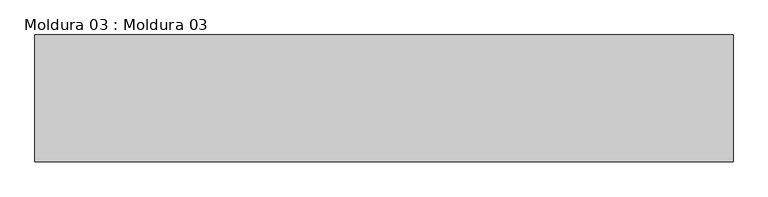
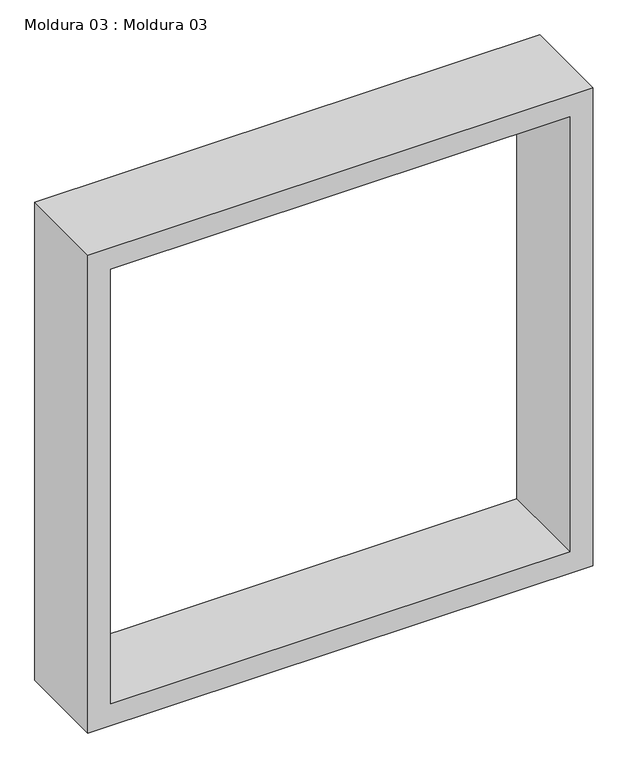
"""IFC4 building model written with IfcOpenShell, lengths in millimetres: proxy geometry, Moldura 03 : Moldura 03."""

from ifc_helpers import new_model, si_unit, frame, origin, place, context, project, spatial, polyline, outline, extrude, source, transform, mapped, element, save


def moldura_03_moldura_03_e8738a7e(model_context):
    return source(origin(), model_context, "Body", "SweptSolid", [
        extrude(outline(polyline([(3150.0, 24220.3673655), (2050.0, 24220.3673655), (2050.0, 25320.3673655), (3150.0, 25320.3673655), (3150.0, 24220.3673655)]), holes=[polyline([(3100.0, 25270.3673655), (2100.0, 25270.3673655), (2100.0, 24270.3673655), (3100.0, 24270.3673655), (3100.0, 25270.3673655)])]), frame((0.0, -8241.1116245, 0.0), z_axis=(0.0, 1.0, 0.0), x_axis=(0.0, 0.0, 1.0)), (0.0, 0.0, 1.0), 200.0),
    ])


if __name__ == "__main__":
    model = new_model("IFC4")
    model_context = context("Model", 3, world=origin())
    ifc_project = project(units=[si_unit("LENGTHUNIT", "METRE", prefix="MILLI")], contexts=[model_context])
    site = spatial("IfcSite", under=ifc_project)
    building = spatial("IfcBuilding", under=site)
    placement = place(None, origin())
    moldura_03_moldura_03_shape = moldura_03_moldura_03_e8738a7e(model_context)
    element("IfcBuildingElementProxy", 1, Name="Moldura 03 : Moldura 03", ObjectType="Moldura 03 : Moldura 03", at=placement, inside=building, context=model_context, shape_type="MappedRepresentation", body=[
        mapped(moldura_03_moldura_03_shape, transform((0.0, 0.0, 0.0), x_axis=(1.0, 0.0, 0.0), y_axis=(0.0, 1.0, 0.0), z_axis=(0.0, 0.0, 1.0))),
    ])
    save(model, "model.ifc")
